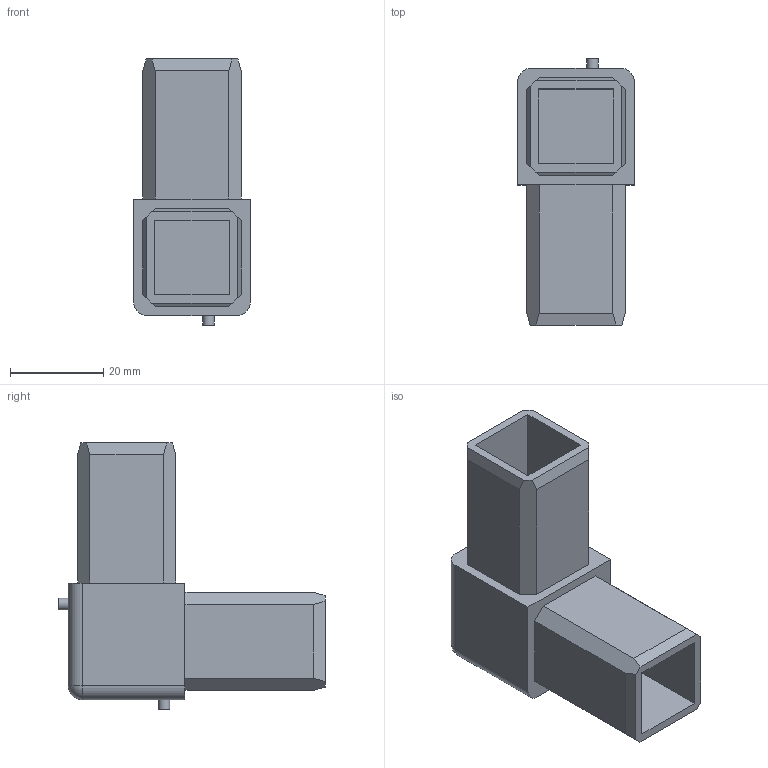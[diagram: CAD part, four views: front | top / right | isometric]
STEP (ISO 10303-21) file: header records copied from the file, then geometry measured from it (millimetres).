
FILE_DESCRIPTION (( 'STEP AP214' ), '1' );
FILE_NAME ('L15804.step', '2024-12-03T16:18:51', ( '' ), ( '' ), 'SwSTEP 2.0', 'SolidWorks 2023', '' );
FILE_SCHEMA (( 'AUTOMOTIVE_DESIGN' ));
Length unit declared in the file: millimetre
Products named in the file (1): L15804
Bounding box: 25 x 57 x 57 mm (x, y, z)
Volume: 19192.2 mm3; surface area: 13130.5 mm2
Topology: 1 solids, 1 shells, 49 faces, 127 edges, 82 vertices
Faces by surface type: plane 40, cylinder 7, sphere 2
Full cylindrical faces by diameter (mm): 2.5 x2
Entity records: 1460 total; most frequent: CARTESIAN_POINT 251, ORIENTED_EDGE 242, DIRECTION 235, EDGE_CURVE 121, LINE 107, VECTOR 107, VERTEX_POINT 80, AXIS2_PLACEMENT_3D 64
